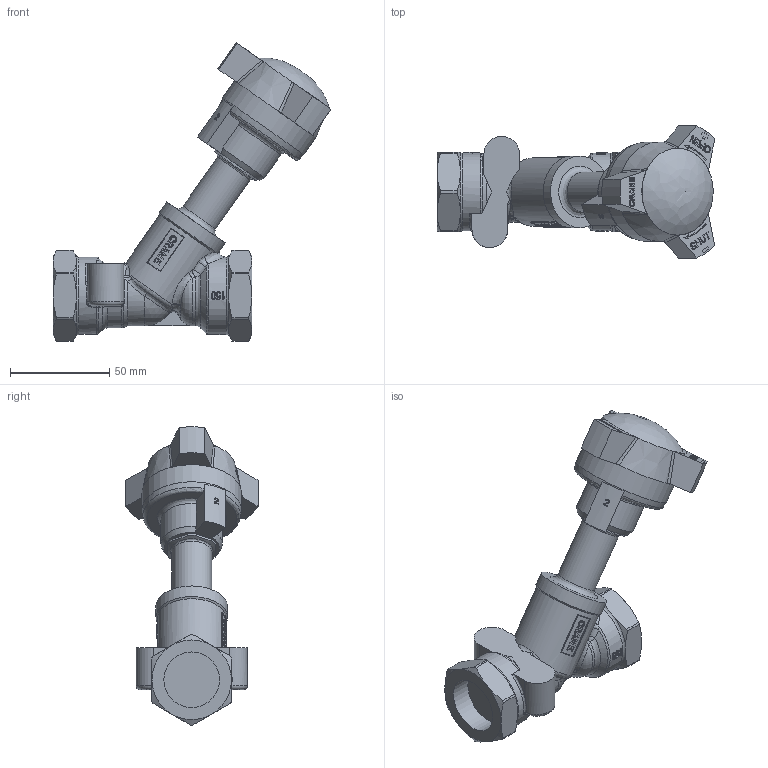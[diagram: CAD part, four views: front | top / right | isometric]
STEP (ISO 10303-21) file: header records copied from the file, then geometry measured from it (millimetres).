
FILE_DESCRIPTION((''),'2;1');
FILE_NAME('P:\Fastrack\53972_CRANE 3D\Workspace\CRANE\D921_1in\D921_1in.stp','2011-03-04T14:56:58',('btaylor'),(''),'Autodesk Inventor 2008','Autodesk Inventor 2008','');
FILE_SCHEMA(('AUTOMOTIVE_DESIGN { 1 0 10303 214 1 1 1 1 }'));
Length unit declared in the file: millimetre
Products named in the file (1): D921_1in
Bounding box: 139.7 x 66.44 x 149.98 mm (x, y, z)
Volume: 224085 mm3; surface area: 35152.4 mm2
Topology: 1 solids, 1 shells, 732 faces, 1994 edges, 1308 vertices
Faces by surface type: bspline 331, plane 291, cylinder 65, cone 33, torus 10, sphere 2
Full cylindrical faces by diameter (mm): 20 x1, 36 x1, 39 x2, 50 x1
Entity records: 71380 total; most frequent: CARTESIAN_POINT 54762, ORIENTED_EDGE 3910, DIRECTION 2186, EDGE_CURVE 1955, VERTEX_POINT 1289, VECTOR 912, LINE 912, EDGE_LOOP 794
